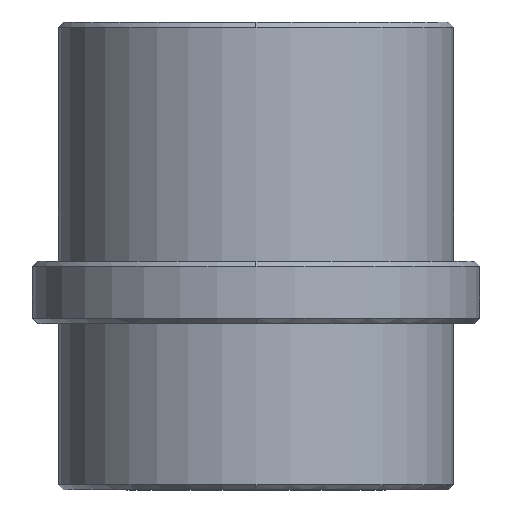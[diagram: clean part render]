
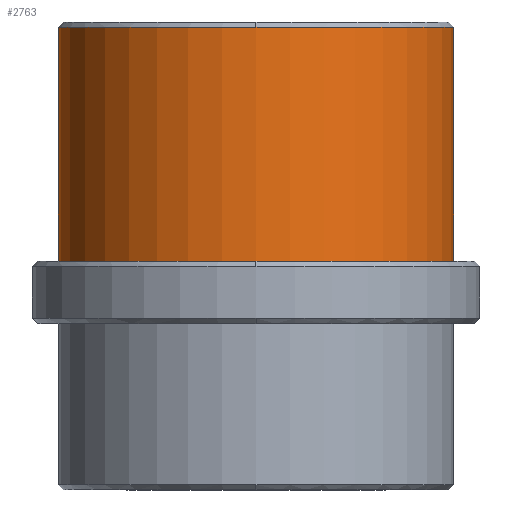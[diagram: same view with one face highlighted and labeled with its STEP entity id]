
A CAD part, front view. The second image highlights one B-rep face of the part: STEP entity #2763.
In plain terms, the highlighted cylindrical face has radius 19 mm (diameter 38 mm), a partial arc.
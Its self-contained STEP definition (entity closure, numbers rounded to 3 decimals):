
#2584=CARTESIAN_POINT('Vertex',(19.,0.,28.5)) ;
#2608=CARTESIAN_POINT('Vertex',(-19.,0.,28.5)) ;
#2632=CARTESIAN_POINT('Vertex',(0.,-19.,28.5)) ;
#2635=CARTESIAN_POINT('Axis2P3D Location',(0.,0.,28.5)) ;
#2652=CARTESIAN_POINT('Axis2P3D Location',(0.,0.,28.5)) ;
#2719=CARTESIAN_POINT('Line Origine',(19.,0.,-18.25)) ;
#2723=CARTESIAN_POINT('Vertex',(19.,0.,6.)) ;
#2730=CARTESIAN_POINT('Vertex',(-19.,0.,6.)) ;
#2733=CARTESIAN_POINT('Line Origine',(-19.,0.,-18.25)) ;
#2746=CARTESIAN_POINT('Axis2P3D Location',(0.,0.,-18.25)) ;
#2751=CARTESIAN_POINT('Axis2P3D Location',(0.,0.,6.)) ;
#2636=DIRECTION('Axis2P3D Direction',(0.,0.,-1.)) ;
#2653=DIRECTION('Axis2P3D Direction',(0.,0.,-1.)) ;
#2720=DIRECTION('Vector Direction',(0.,0.,1.)) ;
#2734=DIRECTION('Vector Direction',(0.,0.,1.)) ;
#2747=DIRECTION('Axis2P3D Direction',(0.,0.,1.)) ;
#2748=DIRECTION('Axis2P3D XDirection',(-1.,0.,0.)) ;
#2752=DIRECTION('Axis2P3D Direction',(0.,0.,1.)) ;
#2637=AXIS2_PLACEMENT_3D('Circle Axis2P3D',#2635,#2636,$) ;
#2654=AXIS2_PLACEMENT_3D('Circle Axis2P3D',#2652,#2653,$) ;
#2749=AXIS2_PLACEMENT_3D('Cylinder Axis2P3D',#2746,#2747,#2748) ;
#2753=AXIS2_PLACEMENT_3D('Circle Axis2P3D',#2751,#2752,$) ;
#2757=ORIENTED_EDGE('',*,*,#2737,.T.) ;
#2758=ORIENTED_EDGE('',*,*,#2755,.F.) ;
#2759=ORIENTED_EDGE('',*,*,#2725,.F.) ;
#2760=ORIENTED_EDGE('',*,*,#2656,.T.) ;
#2761=ORIENTED_EDGE('',*,*,#2639,.T.) ;
#2721=VECTOR('Line Direction',#2720,1.) ;
#2735=VECTOR('Line Direction',#2734,1.) ;
#2763=ADVANCED_FACE('MANIFOLD_SOLID_BREP #2364',(#2762),#2750,.T.) ;
#2638=CIRCLE('generated circle',#2637,19.) ;
#2655=CIRCLE('generated circle',#2654,19.) ;
#2754=CIRCLE('generated circle',#2753,19.) ;
#2750=CYLINDRICAL_SURFACE('generated cylinder',#2749,19.) ;
#2639=EDGE_CURVE('',#2633,#2609,#2638,.T.) ;
#2656=EDGE_CURVE('',#2585,#2633,#2655,.T.) ;
#2725=EDGE_CURVE('',#2585,#2724,#2722,.F.) ;
#2737=EDGE_CURVE('',#2609,#2731,#2736,.F.) ;
#2755=EDGE_CURVE('',#2724,#2731,#2754,.F.) ;
#2756=EDGE_LOOP('',(#2757,#2758,#2759,#2760,#2761)) ;
#2762=FACE_OUTER_BOUND('',#2756,.T.) ;
#2722=LINE('Line',#2719,#2721) ;
#2736=LINE('Line',#2733,#2735) ;
#2585=VERTEX_POINT('',#2584) ;
#2609=VERTEX_POINT('',#2608) ;
#2633=VERTEX_POINT('',#2632) ;
#2724=VERTEX_POINT('',#2723) ;
#2731=VERTEX_POINT('',#2730) ;
